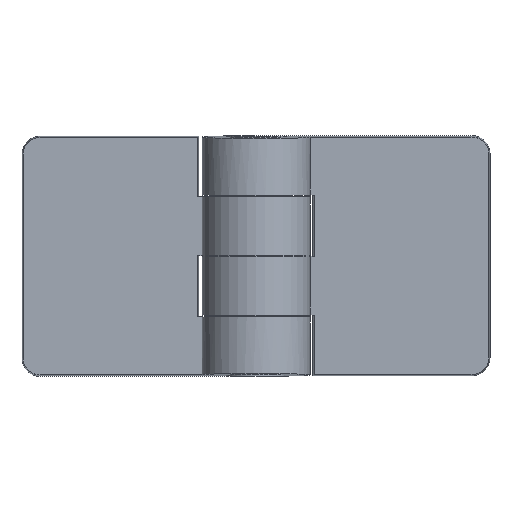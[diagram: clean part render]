
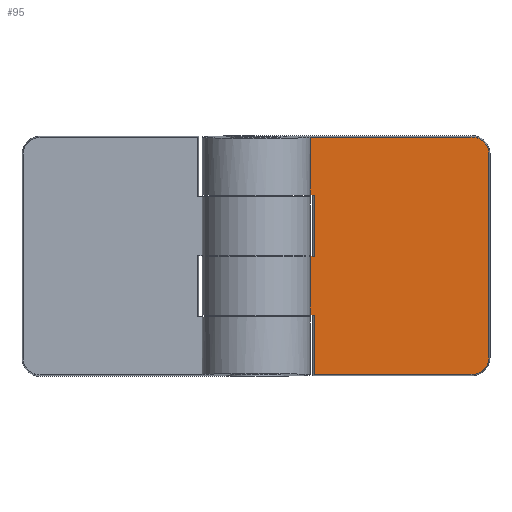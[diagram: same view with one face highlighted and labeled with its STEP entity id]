
A CAD part, front view. The second image highlights one B-rep face of the part: STEP entity #95.
In plain terms, the highlighted planar face has unit normal (0, -1, 0).
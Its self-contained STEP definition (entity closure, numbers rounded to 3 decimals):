
#95=ADVANCED_FACE('',(#168),#169,.T.);
#168=FACE_OUTER_BOUND('',#272,.T.);
#169=PLANE('',#273);
#272=EDGE_LOOP('',(#488,#489,#490,#491,#492,#493,#494,#495,#496,#497,#498,#499));
#273=AXIS2_PLACEMENT_3D('',#500,#501,#502);
#488=ORIENTED_EDGE('',*,*,#792,.F.);
#489=ORIENTED_EDGE('',*,*,#786,.F.);
#490=ORIENTED_EDGE('',*,*,#783,.T.);
#491=ORIENTED_EDGE('',*,*,#780,.T.);
#492=ORIENTED_EDGE('',*,*,#777,.F.);
#493=ORIENTED_EDGE('',*,*,#772,.F.);
#494=ORIENTED_EDGE('',*,*,#744,.F.);
#495=ORIENTED_EDGE('',*,*,#794,.T.);
#496=ORIENTED_EDGE('',*,*,#791,.F.);
#497=ORIENTED_EDGE('',*,*,#762,.F.);
#498=ORIENTED_EDGE('',*,*,#751,.T.);
#499=ORIENTED_EDGE('',*,*,#756,.T.);
#500=CARTESIAN_POINT('',(25.0,0.7,0.05));
#501=DIRECTION('',(0.0,-1.0,0.0));
#502=DIRECTION('',(0.0,0.0,-1.0));
#744=EDGE_CURVE('',#883,#885,#886,.T.);
#751=EDGE_CURVE('',#898,#896,#899,.T.);
#756=EDGE_CURVE('',#896,#906,#907,.T.);
#762=EDGE_CURVE('',#898,#917,#918,.T.);
#772=EDGE_CURVE('',#885,#934,#935,.T.);
#777=EDGE_CURVE('',#934,#943,#944,.T.);
#780=EDGE_CURVE('',#948,#943,#949,.T.);
#783=EDGE_CURVE('',#953,#948,#954,.T.);
#786=EDGE_CURVE('',#953,#958,#959,.T.);
#791=EDGE_CURVE('',#917,#964,#967,.T.);
#792=EDGE_CURVE('',#958,#906,#968,.T.);
#794=EDGE_CURVE('',#883,#964,#970,.T.);
#883=VERTEX_POINT('',#1100);
#885=VERTEX_POINT('',#1102);
#886=LINE('',#1103,#1104);
#896=VERTEX_POINT('',#1116);
#898=VERTEX_POINT('',#1118);
#899=LINE('',#1119,#1120);
#906=VERTEX_POINT('',#1128);
#907=LINE('',#1129,#1130);
#917=VERTEX_POINT('',#1142);
#918=LINE('',#1143,#1144);
#934=VERTEX_POINT('',#1164);
#935=LINE('',#1165,#1166);
#943=VERTEX_POINT('',#1176);
#944=CIRCLE('',#1177,2.783);
#948=VERTEX_POINT('',#1182);
#949=LINE('',#1183,#1184);
#953=VERTEX_POINT('',#1190);
#954=CIRCLE('',#1191,2.783);
#958=VERTEX_POINT('',#1196);
#959=LINE('',#1197,#1198);
#964=VERTEX_POINT('',#1205);
#967=LINE('',#1210,#1211);
#968=LINE('',#1212,#1213);
#970=LINE('',#1216,#1217);
#1100=CARTESIAN_POINT('',(8.973,0.7,10.15));
#1102=CARTESIAN_POINT('',(8.973,0.7,19.833));
#1103=CARTESIAN_POINT('',(8.973,0.7,10.15));
#1104=VECTOR('',#1382,9.683);
#1116=CARTESIAN_POINT('',(8.973,0.7,-9.85));
#1118=CARTESIAN_POINT('',(8.973,0.7,-0.05));
#1119=CARTESIAN_POINT('',(8.973,0.7,-0.05));
#1120=VECTOR('',#1397,9.8);
#1128=CARTESIAN_POINT('',(9.717,0.7,-9.85));
#1129=CARTESIAN_POINT('',(8.973,0.7,-9.85));
#1130=VECTOR('',#1408,0.745);
#1142=CARTESIAN_POINT('',(9.717,0.7,-0.05));
#1143=CARTESIAN_POINT('',(8.973,0.7,-0.05));
#1144=VECTOR('',#1420,0.745);
#1164=CARTESIAN_POINT('',(36.0,0.7,19.833));
#1165=CARTESIAN_POINT('',(8.973,0.7,19.833));
#1166=VECTOR('',#1440,27.027);
#1176=CARTESIAN_POINT('',(38.783,0.7,17.05));
#1177=AXIS2_PLACEMENT_3D('',#1449,#1450,#1451);
#1182=CARTESIAN_POINT('',(38.783,0.7,-16.95));
#1183=CARTESIAN_POINT('',(38.783,0.7,-16.95));
#1184=VECTOR('',#1456,34.0);
#1190=CARTESIAN_POINT('',(36.0,0.7,-19.733));
#1191=AXIS2_PLACEMENT_3D('',#1459,#1460,#1461);
#1196=CARTESIAN_POINT('',(9.717,0.7,-19.733));
#1197=CARTESIAN_POINT('',(36.0,0.7,-19.733));
#1198=VECTOR('',#1466,26.283);
#1205=CARTESIAN_POINT('',(9.717,0.7,10.15));
#1210=CARTESIAN_POINT('',(9.717,0.7,-0.05));
#1211=VECTOR('',#1471,10.2);
#1212=CARTESIAN_POINT('',(9.717,0.7,-19.733));
#1213=VECTOR('',#1472,9.883);
#1216=CARTESIAN_POINT('',(8.973,0.7,10.15));
#1217=VECTOR('',#1474,0.745);
#1382=DIRECTION('',(0.0,0.0,1.0));
#1397=DIRECTION('',(0.0,0.0,-1.0));
#1408=DIRECTION('',(1.0,0.0,0.0));
#1420=DIRECTION('',(1.0,0.0,0.0));
#1440=DIRECTION('',(1.0,0.0,0.0));
#1449=CARTESIAN_POINT('',(36.0,0.7,17.05));
#1450=DIRECTION('',(0.0,1.0,0.0));
#1451=DIRECTION('',(0.0,0.0,1.0));
#1456=DIRECTION('',(0.0,0.0,1.0));
#1459=CARTESIAN_POINT('',(36.0,0.7,-16.95));
#1460=DIRECTION('',(0.0,-1.0,0.0));
#1461=DIRECTION('',(0.0,0.0,-1.0));
#1466=DIRECTION('',(-1.0,0.0,0.0));
#1471=DIRECTION('',(0.0,0.0,1.0));
#1472=DIRECTION('',(0.0,0.0,1.0));
#1474=DIRECTION('',(1.0,0.0,0.0));
